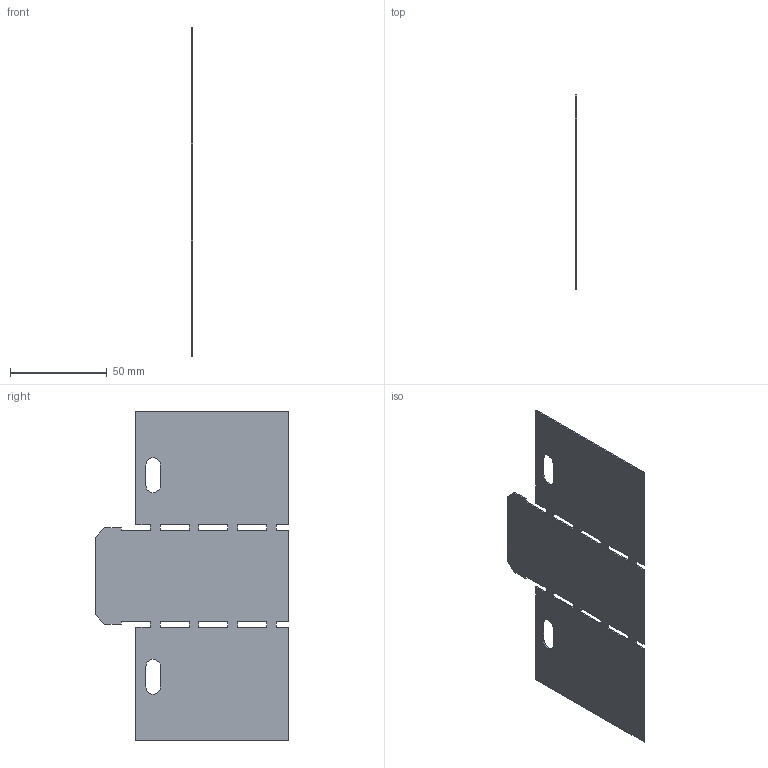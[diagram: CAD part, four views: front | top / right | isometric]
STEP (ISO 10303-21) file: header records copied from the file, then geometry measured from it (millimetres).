
FILE_DESCRIPTION (( 'STEP AP203' ), '1' );
FILE_NAME ('REER 50x100.STEP', '2020-02-12T08:26:10', ( '' ), ( '' ), 'SwSTEP 2.0', 'SolidWorks 2019', '' );
FILE_SCHEMA (( 'CONFIG_CONTROL_DESIGN' ));
Length unit declared in the file: millimetre
Products named in the file (1): REER 50x100
Bounding box: 0.7 x 100 x 170 mm (x, y, z)
Volume: 9682.9 mm3; surface area: 28296.2 mm2
Topology: 1 solids, 1 shells, 62 faces, 180 edges, 120 vertices
Faces by surface type: plane 56, cylinder 6
Entity records: 2125 total; most frequent: CARTESIAN_POINT 363, ORIENTED_EDGE 360, DIRECTION 318, EDGE_CURVE 180, VECTOR 168, LINE 168, VERTEX_POINT 120, EDGE_LOOP 78
